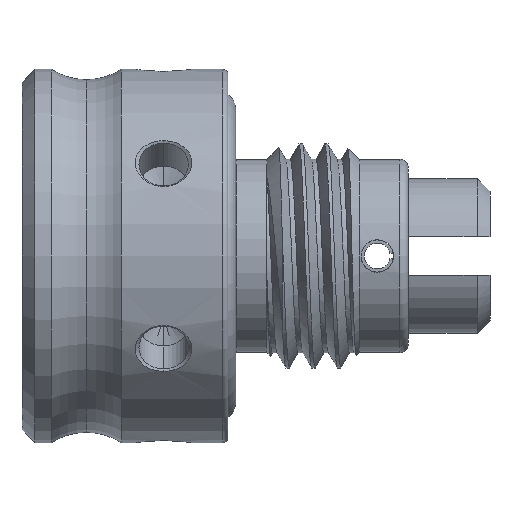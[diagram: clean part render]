
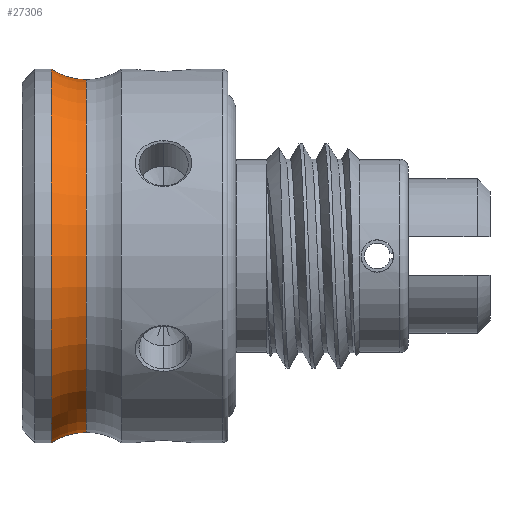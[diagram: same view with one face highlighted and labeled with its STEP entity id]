
A CAD part, front view. The second image highlights one B-rep face of the part: STEP entity #27306.
In plain terms, the highlighted toroidal (fillet/blend) face has major radius 11.874 mm and minor radius 3.175 mm.
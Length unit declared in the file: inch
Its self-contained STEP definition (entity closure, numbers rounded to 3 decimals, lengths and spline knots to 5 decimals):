
#1910 = ORIENTED_EDGE ( 'NONE', *, *, #21557, .T. ) ;
#2367 = DIRECTION ( 'NONE',  ( 0., 0., 1. ) ) ;
#3504 = CARTESIAN_POINT ( 'NONE',  ( 0.125, 0., -0.3425 ) ) ;
#4169 = VERTEX_POINT ( 'NONE', #9212 ) ;
#4187 = CIRCLE ( 'NONE', #15398, 0.3625 ) ;
#4311 = AXIS2_PLACEMENT_3D ( 'NONE', #33442, #16422, #36285 ) ;
#5403 = DIRECTION ( 'NONE',  ( -1., 0., 0. ) ) ;
#6865 = CARTESIAN_POINT ( 'NONE',  ( 0.125, 0., 0. ) ) ;
#6992 = DIRECTION ( 'NONE',  ( -1., 0., 0. ) ) ;
#7559 = CARTESIAN_POINT ( 'NONE',  ( 0.125, 0., 0.3425 ) ) ;
#8782 = FACE_OUTER_BOUND ( 'NONE', #10889, .T. ) ;
#9212 = CARTESIAN_POINT ( 'NONE',  ( 0.05718, 0., -0.3625 ) ) ;
#9655 = CIRCLE ( 'NONE', #4311, 0.125 ) ;
#10751 = CARTESIAN_POINT ( 'NONE',  ( 0.125, 0., -0.4675 ) ) ;
#10889 = EDGE_LOOP ( 'NONE', ( #29829, #1910, #27227, #33460 ) ) ;
#13577 = EDGE_CURVE ( 'NONE', #4169, #25883, #17284, .T. ) ;
#13587 = DIRECTION ( 'NONE',  ( 0., 0., 1. ) ) ;
#15398 = AXIS2_PLACEMENT_3D ( 'NONE', #22370, #5403, #25234 ) ;
#16260 = AXIS2_PLACEMENT_3D ( 'NONE', #36358, #19380, #2367 ) ;
#16394 = EDGE_CURVE ( 'NONE', #4169, #17484, #4187, .T. ) ;
#16422 = DIRECTION ( 'NONE',  ( 0., -1., 0. ) ) ;
#17284 = CIRCLE ( 'NONE', #30793, 0.125 ) ;
#17407 = EDGE_CURVE ( 'NONE', #17484, #35101, #9655, .T. ) ;
#17484 = VERTEX_POINT ( 'NONE', #25265 ) ;
#18699 = AXIS2_PLACEMENT_3D ( 'NONE', #6865, #6992, #26820 ) ;
#19380 = DIRECTION ( 'NONE',  ( -1., 0., 0. ) ) ;
#21557 = EDGE_CURVE ( 'NONE', #25883, #35101, #22225, .T. ) ;
#22225 = CIRCLE ( 'NONE', #16260, 0.3425 ) ;
#22370 = CARTESIAN_POINT ( 'NONE',  ( 0.05718, 0., 0. ) ) ;
#25234 = DIRECTION ( 'NONE',  ( 0., 0., 1. ) ) ;
#25265 = CARTESIAN_POINT ( 'NONE',  ( 0.05718, 0., 0.3625 ) ) ;
#25883 = VERTEX_POINT ( 'NONE', #3504 ) ;
#26820 = DIRECTION ( 'NONE',  ( 0., 0., 1. ) ) ;
#27227 = ORIENTED_EDGE ( 'NONE', *, *, #17407, .F. ) ;
#27306 = ADVANCED_FACE ( 'NONE', ( #8782 ), #27863, .F. ) ;
#27863 = TOROIDAL_SURFACE ( 'NONE', #18699, 0.4675, 0.125 ) ;
#29829 = ORIENTED_EDGE ( 'NONE', *, *, #13577, .T. ) ;
#30580 = DIRECTION ( 'NONE',  ( 0., 1., 0. ) ) ;
#30793 = AXIS2_PLACEMENT_3D ( 'NONE', #10751, #30580, #13587 ) ;
#33442 = CARTESIAN_POINT ( 'NONE',  ( 0.125, 0., 0.4675 ) ) ;
#33460 = ORIENTED_EDGE ( 'NONE', *, *, #16394, .F. ) ;
#35101 = VERTEX_POINT ( 'NONE', #7559 ) ;
#36285 = DIRECTION ( 'NONE',  ( 0., 0., -1. ) ) ;
#36358 = CARTESIAN_POINT ( 'NONE',  ( 0.125, 0., 0. ) ) ;
